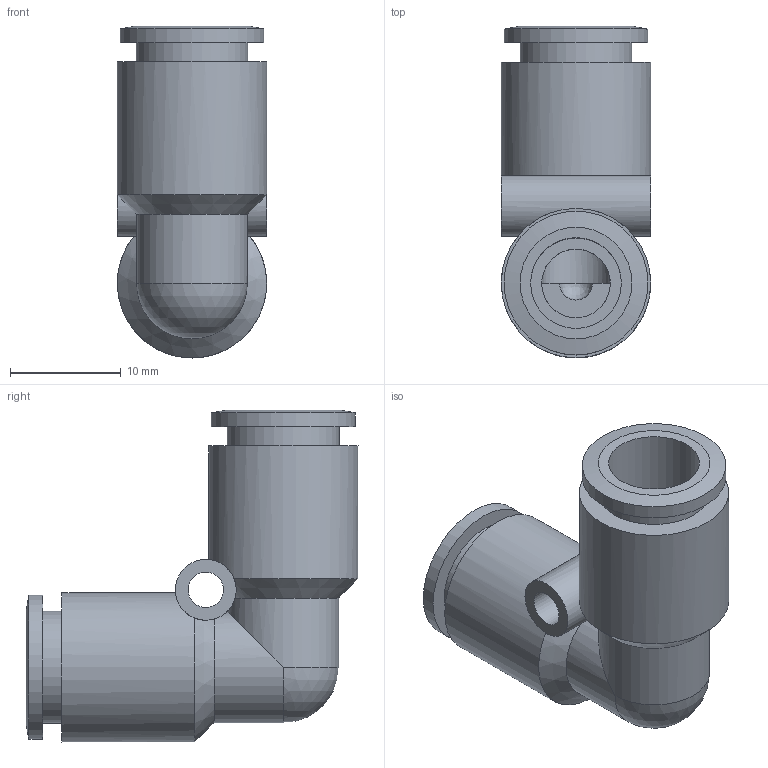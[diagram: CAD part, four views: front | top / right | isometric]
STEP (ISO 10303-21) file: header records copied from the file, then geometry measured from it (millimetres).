
FILE_DESCRIPTION((''),'2;1');
FILE_NAME('C:\Documents and Settings\rivolro1\Documenti\copia di Raccordi\PLASTICA\T04XX00\T040800.stp','2007-10-30T15:36:39',('Rivolro1'),(''),'Autodesk Inventor 2008','Autodesk Inventor 2008','');
FILE_SCHEMA(('AUTOMOTIVE_DESIGN { 1 0 10303 214 1 1 1 1 }'));
Length unit declared in the file: millimetre
Products named in the file (1): T040800
Bounding box: 13.5 x 30 x 30 mm (x, y, z)
Volume: 3355 mm3; surface area: 3587.5 mm2
Topology: 1 solids, 1 shells, 32 faces, 70 edges, 44 vertices
Faces by surface type: cylinder 12, plane 10, bspline 5, cone 4, sphere 1
Full cylindrical faces by diameter (mm): 3.2 x1, 5.5 x1, 6.2 x2, 10 x2, 10.1 x2, 13 x2, 13.5 x2
Entity records: 961 total; most frequent: CARTESIAN_POINT 309, DIRECTION 130, ORIENTED_EDGE 92, AXIS2_PLACEMENT_3D 64, EDGE_LOOP 60, EDGE_CURVE 46, VERTEX_POINT 38, CIRCLE 34
